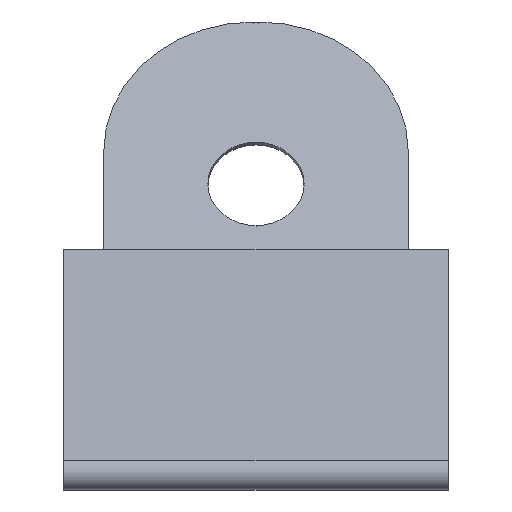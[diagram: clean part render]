
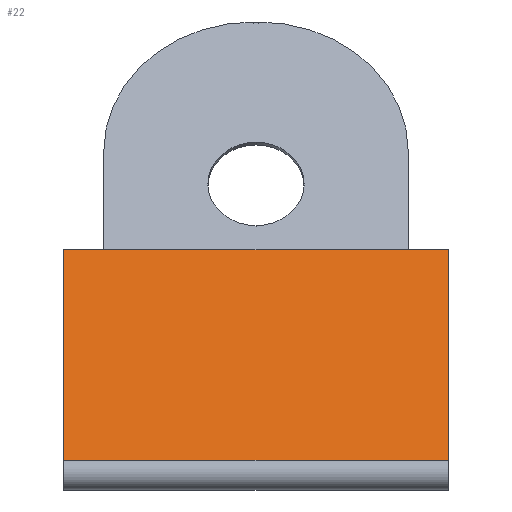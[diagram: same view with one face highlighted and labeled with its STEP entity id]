
A CAD part, front view. The second image highlights one B-rep face of the part: STEP entity #22.
In plain terms, the highlighted planar face has unit normal (0, -0.541, 0.841).
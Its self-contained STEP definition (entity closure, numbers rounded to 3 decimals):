
#7 = VECTOR ( 'NONE', #150, 1000. ) ;
#22 = ADVANCED_FACE ( 'NONE', ( #479 ), #329, .T. ) ;
#56 = LINE ( 'NONE', #386, #7 ) ;
#62 = CARTESIAN_POINT ( 'NONE',  ( -3.6, -8.083, 4.4 ) ) ;
#88 = EDGE_CURVE ( 'NONE', #492, #117, #56, .T. ) ;
#117 = VERTEX_POINT ( 'NONE', #197 ) ;
#118 = EDGE_CURVE ( 'NONE', #230, #117, #710, .T. ) ;
#150 = DIRECTION ( 'NONE',  ( 0., -0.841, -0.541 ) ) ;
#156 = EDGE_CURVE ( 'NONE', #742, #230, #695, .T. ) ;
#159 = ORIENTED_EDGE ( 'NONE', *, *, #541, .F. ) ;
#194 = DIRECTION ( 'NONE',  ( 0., -0.541, 0.841 ) ) ;
#197 = CARTESIAN_POINT ( 'NONE',  ( 3.6, -14.216, 0.452 ) ) ;
#214 = EDGE_LOOP ( 'NONE', ( #562, #682, #159, #586 ) ) ;
#230 = VERTEX_POINT ( 'NONE', #472 ) ;
#290 = VECTOR ( 'NONE', #348, 1000. ) ;
#328 = DIRECTION ( 'NONE',  ( 1., 0., 0. ) ) ;
#329 = PLANE ( 'NONE',  #333 ) ;
#331 = CARTESIAN_POINT ( 'NONE',  ( -3.6, -8.083, 4.4 ) ) ;
#333 = AXIS2_PLACEMENT_3D ( 'NONE', #536, #194, #602 ) ;
#348 = DIRECTION ( 'NONE',  ( 0., -0.841, -0.541 ) ) ;
#386 = CARTESIAN_POINT ( 'NONE',  ( 3.6, -8.107, 4.384 ) ) ;
#406 = CARTESIAN_POINT ( 'NONE',  ( 3.6, -8.083, 4.4 ) ) ;
#472 = CARTESIAN_POINT ( 'NONE',  ( -3.6, -14.216, 0.452 ) ) ;
#479 = FACE_OUTER_BOUND ( 'NONE', #214, .T. ) ;
#492 = VERTEX_POINT ( 'NONE', #406 ) ;
#536 = CARTESIAN_POINT ( 'NONE',  ( -3.6, -8.107, 4.384 ) ) ;
#537 = VECTOR ( 'NONE', #570, 1000. ) ;
#541 = EDGE_CURVE ( 'NONE', #742, #492, #578, .T. ) ;
#547 = CARTESIAN_POINT ( 'NONE',  ( -3.6, -14.216, 0.452 ) ) ;
#562 = ORIENTED_EDGE ( 'NONE', *, *, #118, .T. ) ;
#570 = DIRECTION ( 'NONE',  ( 1., 0., 0. ) ) ;
#578 = LINE ( 'NONE', #62, #537 ) ;
#586 = ORIENTED_EDGE ( 'NONE', *, *, #156, .T. ) ;
#602 = DIRECTION ( 'NONE',  ( 0., -0.841, -0.541 ) ) ;
#682 = ORIENTED_EDGE ( 'NONE', *, *, #88, .F. ) ;
#684 = CARTESIAN_POINT ( 'NONE',  ( -3.6, -8.107, 4.384 ) ) ;
#695 = LINE ( 'NONE', #684, #290 ) ;
#706 = VECTOR ( 'NONE', #328, 1000. ) ;
#710 = LINE ( 'NONE', #547, #706 ) ;
#742 = VERTEX_POINT ( 'NONE', #331 ) ;
